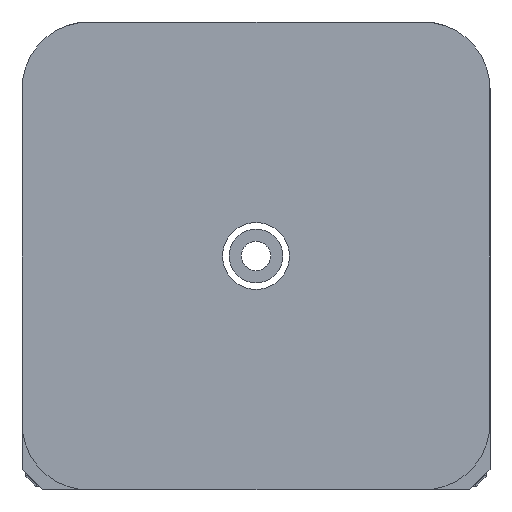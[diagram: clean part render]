
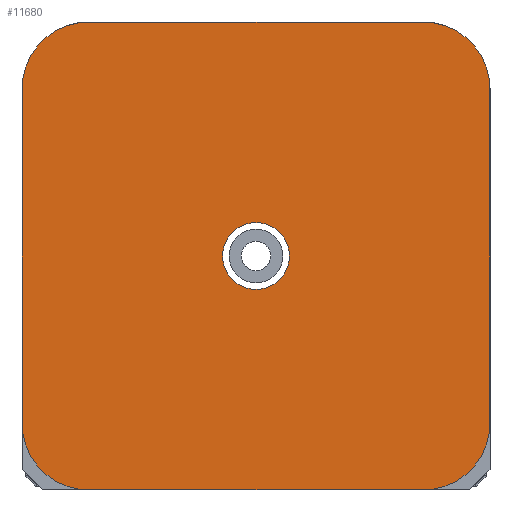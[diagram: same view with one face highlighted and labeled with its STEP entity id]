
A CAD part, front view. The second image highlights one B-rep face of the part: STEP entity #11680.
In plain terms, the highlighted planar face has unit normal (0, -1, 0) as drawn and (0, 0, 1) by its records, which use the part's own axes.
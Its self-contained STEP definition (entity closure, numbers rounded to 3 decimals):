
#630=PLANE('',#12549);
#1329=CIRCLE('',#12536,5.);
#1330=CIRCLE('',#12539,5.);
#1331=CIRCLE('',#12542,5.);
#1332=CIRCLE('',#12545,5.);
#1333=CIRCLE('',#12548,2.5);
#2102=ORIENTED_EDGE('',*,*,#5307,.F.);
#2103=ORIENTED_EDGE('',*,*,#5321,.F.);
#2104=ORIENTED_EDGE('',*,*,#5319,.F.);
#2105=ORIENTED_EDGE('',*,*,#5317,.F.);
#2106=ORIENTED_EDGE('',*,*,#5315,.F.);
#2107=ORIENTED_EDGE('',*,*,#5313,.F.);
#2108=ORIENTED_EDGE('',*,*,#5311,.F.);
#2109=ORIENTED_EDGE('',*,*,#5309,.F.);
#2110=ORIENTED_EDGE('',*,*,#5322,.F.);
#5307=EDGE_CURVE('',#6963,#6964,#1329,.T.);
#5309=EDGE_CURVE('',#6964,#6965,#7938,.T.);
#5311=EDGE_CURVE('',#6965,#6966,#1330,.T.);
#5313=EDGE_CURVE('',#6966,#6967,#7941,.T.);
#5315=EDGE_CURVE('',#6967,#6968,#1331,.T.);
#5317=EDGE_CURVE('',#6968,#6969,#7944,.T.);
#5319=EDGE_CURVE('',#6969,#6970,#1332,.T.);
#5321=EDGE_CURVE('',#6970,#6963,#7947,.T.);
#5322=EDGE_CURVE('',#6971,#6971,#1333,.T.);
#6963=VERTEX_POINT('',#19704);
#6964=VERTEX_POINT('',#19706);
#6965=VERTEX_POINT('',#19710);
#6966=VERTEX_POINT('',#19714);
#6967=VERTEX_POINT('',#19718);
#6968=VERTEX_POINT('',#19722);
#6969=VERTEX_POINT('',#19726);
#6970=VERTEX_POINT('',#19730);
#6971=VERTEX_POINT('',#19736);
#7938=LINE('',#19709,#8513);
#7941=LINE('',#19717,#8516);
#7944=LINE('',#19725,#8519);
#7947=LINE('',#19733,#8522);
#8513=VECTOR('',#13747,1000.);
#8516=VECTOR('',#13756,1000.);
#8519=VECTOR('',#13765,1000.);
#8522=VECTOR('',#13774,1000.);
#9127=EDGE_LOOP('',(#2102,#2103,#2104,#2105,#2106,#2107,#2108,#2109));
#9128=EDGE_LOOP('',(#2110));
#9985=FACE_BOUND('',#9127,.T.);
#9986=FACE_BOUND('',#9128,.T.);
#11680=ADVANCED_FACE('',(#9985,#9986),#630,.F.);
#12536=AXIS2_PLACEMENT_3D('',#19705,#13742,#13743);
#12539=AXIS2_PLACEMENT_3D('',#19713,#13751,#13752);
#12542=AXIS2_PLACEMENT_3D('',#19721,#13760,#13761);
#12545=AXIS2_PLACEMENT_3D('',#19729,#13769,#13770);
#12548=AXIS2_PLACEMENT_3D('',#19735,#13777,#13778);
#12549=AXIS2_PLACEMENT_3D('',#19737,#13779,#13780);
#13742=DIRECTION('',(0.,0.,-1.));
#13743=DIRECTION('',(0.,-1.,0.));
#13747=DIRECTION('',(0.,-1.,0.));
#13751=DIRECTION('',(0.,0.,-1.));
#13752=DIRECTION('',(0.,1.,0.));
#13756=DIRECTION('',(-1.,0.,0.));
#13760=DIRECTION('',(0.,0.,-1.));
#13761=DIRECTION('',(0.,-1.,0.));
#13765=DIRECTION('',(0.,1.,0.));
#13769=DIRECTION('',(0.,0.,-1.));
#13770=DIRECTION('',(0.,-1.,0.));
#13774=DIRECTION('',(1.,0.,0.));
#13777=DIRECTION('',(0.,0.,1.));
#13778=DIRECTION('',(0.,-1.,0.));
#13779=DIRECTION('',(0.,0.,-1.));
#13780=DIRECTION('',(-1.,0.,0.));
#19704=CARTESIAN_POINT('',(12.5,17.5,14.));
#19705=CARTESIAN_POINT('',(12.5,12.5,14.));
#19706=CARTESIAN_POINT('',(17.5,12.5,14.));
#19709=CARTESIAN_POINT('',(17.5,12.5,14.));
#19710=CARTESIAN_POINT('',(17.5,-12.5,14.));
#19713=CARTESIAN_POINT('',(12.5,-12.5,14.));
#19714=CARTESIAN_POINT('',(12.5,-17.5,14.));
#19717=CARTESIAN_POINT('',(12.5,-17.5,14.));
#19718=CARTESIAN_POINT('',(-12.5,-17.5,14.));
#19721=CARTESIAN_POINT('',(-12.5,-12.5,14.));
#19722=CARTESIAN_POINT('',(-17.5,-12.5,14.));
#19725=CARTESIAN_POINT('',(-17.5,-12.5,14.));
#19726=CARTESIAN_POINT('',(-17.5,12.5,14.));
#19729=CARTESIAN_POINT('',(-12.5,12.5,14.));
#19730=CARTESIAN_POINT('',(-12.5,17.5,14.));
#19733=CARTESIAN_POINT('',(-12.5,17.5,14.));
#19735=CARTESIAN_POINT('',(0.,0.,14.));
#19736=CARTESIAN_POINT('',(0.,-2.5,14.));
#19737=CARTESIAN_POINT('',(12.5,12.5,14.));
